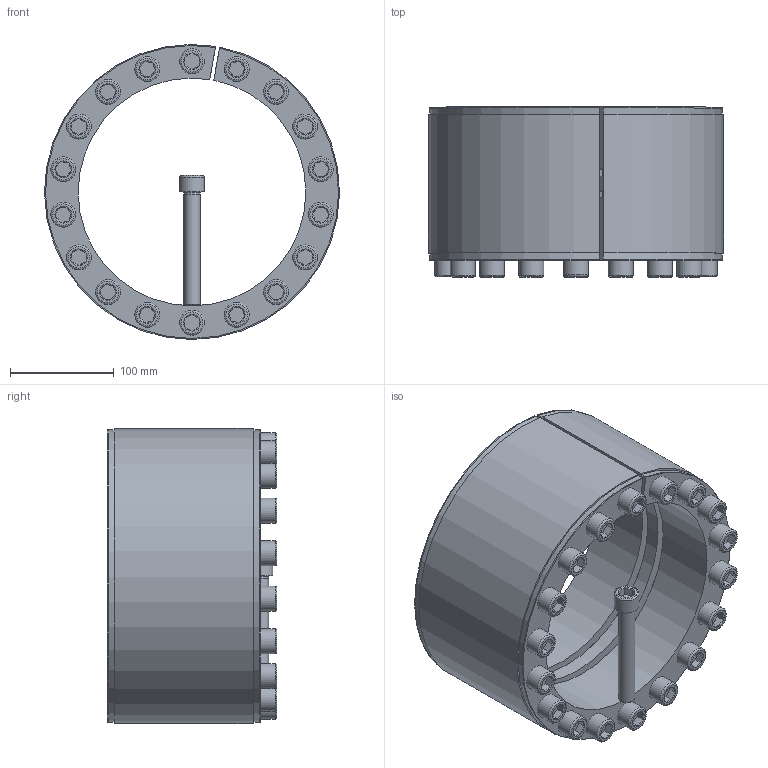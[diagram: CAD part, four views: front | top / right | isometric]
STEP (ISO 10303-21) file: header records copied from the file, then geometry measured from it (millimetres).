
FILE_DESCRIPTION( ( 'Unknown' ), '1' );
FILE_NAME( 'C:/Dokumente und Einstellungen/Sven/Desktop/homepage/cad - homepage/KBS11/KBS 11 - 220 x 285.stp', 'Unknown', ( 'Unknown' ), ( 'Unknown' ), 'XStep 1.0', 'Unknown', ' ' );
FILE_SCHEMA( ( 'automotive_design' ) );
Length unit declared in the file: millimetre
Products named in the file (3): Assem1; KBS 11 - 220 x 285; ISO EN DIN 4762 M16x110
Bounding box: 284.99 x 164 x 284.99 mm (x, y, z)
Volume: 6572027.7 mm3; surface area: 1103074.9 mm2
Topology: 21 solids, 21 shells, 623 faces, 1321 edges, 816 vertices
Faces by surface type: plane 248, cylinder 196, cone 141, torus 38
Full cylindrical faces by diameter (mm): 13 x19, 16 x146, 24 x19
Entity records: 3422 total; most frequent: CARTESIAN_POINT 573, DIRECTION 564, ORIENTED_EDGE 394, EDGE_LOOP 272, AXIS2_PLACEMENT_3D 262, EDGE_CURVE 197, VERTEX_POINT 167, FACE_OUTER_BOUND 159
